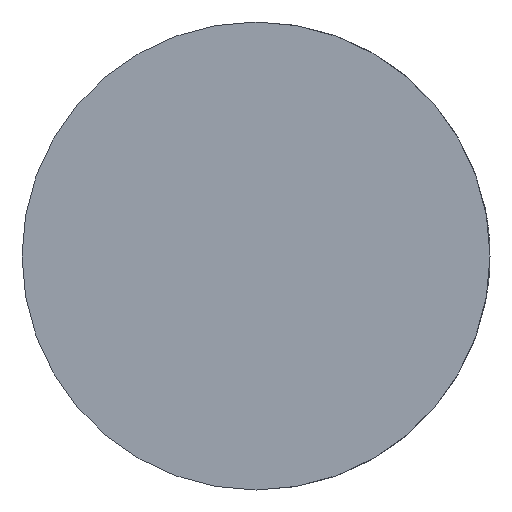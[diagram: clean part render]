
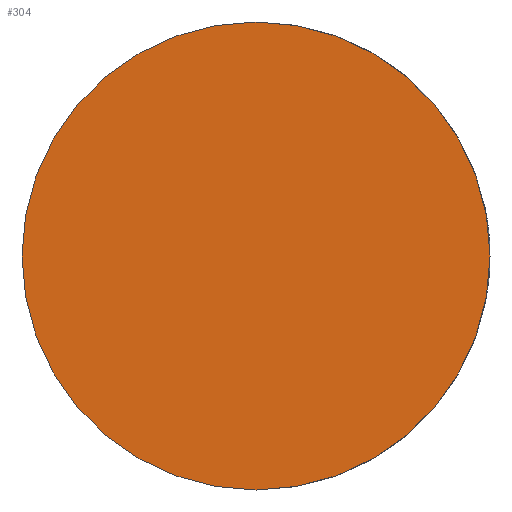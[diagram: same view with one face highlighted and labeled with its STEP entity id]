
A CAD part, front view. The second image highlights one B-rep face of the part: STEP entity #304.
In plain terms, the highlighted planar face has unit normal (0, -1, 0).
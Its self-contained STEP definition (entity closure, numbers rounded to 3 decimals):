
#161 = PLANE ( 'NONE',  #1412 ) ;
#304 = ADVANCED_FACE ( 'NONE', ( #1239 ), #161, .T. ) ;
#335 = EDGE_CURVE ( 'NONE', #1860, #882, #1156, .T. ) ;
#347 = CIRCLE ( 'NONE', #2270, 20. ) ;
#522 = DIRECTION ( 'NONE',  ( 0., 0., -1. ) ) ;
#535 = CARTESIAN_POINT ( 'NONE',  ( 0., -0.3, 0. ) ) ;
#683 = AXIS2_PLACEMENT_3D ( 'NONE', #535, #2128, #522 ) ;
#878 = ORIENTED_EDGE ( 'NONE', *, *, #335, .T. ) ;
#882 = VERTEX_POINT ( 'NONE', #2042 ) ;
#919 = ORIENTED_EDGE ( 'NONE', *, *, #1651, .T. ) ;
#990 = CARTESIAN_POINT ( 'NONE',  ( 0., -0.3, -20. ) ) ;
#1156 = CIRCLE ( 'NONE', #683, 20. ) ;
#1239 = FACE_OUTER_BOUND ( 'NONE', #1596, .T. ) ;
#1396 = DIRECTION ( 'NONE',  ( 0., -1., 0. ) ) ;
#1406 = DIRECTION ( 'NONE',  ( 0., -1., 0. ) ) ;
#1412 = AXIS2_PLACEMENT_3D ( 'NONE', #1966, #1406, #1749 ) ;
#1596 = EDGE_LOOP ( 'NONE', ( #919, #878 ) ) ;
#1651 = EDGE_CURVE ( 'NONE', #882, #1860, #347, .T. ) ;
#1749 = DIRECTION ( 'NONE',  ( 0., 0., -1. ) ) ;
#1860 = VERTEX_POINT ( 'NONE', #990 ) ;
#1966 = CARTESIAN_POINT ( 'NONE',  ( 0., -0.3, 0. ) ) ;
#1972 = CARTESIAN_POINT ( 'NONE',  ( 0., -0.3, 0. ) ) ;
#2042 = CARTESIAN_POINT ( 'NONE',  ( 0., -0.3, 20. ) ) ;
#2128 = DIRECTION ( 'NONE',  ( 0., -1., 0. ) ) ;
#2136 = DIRECTION ( 'NONE',  ( 0., 0., -1. ) ) ;
#2270 = AXIS2_PLACEMENT_3D ( 'NONE', #1972, #1396, #2136 ) ;
